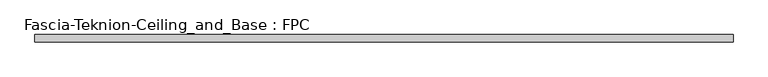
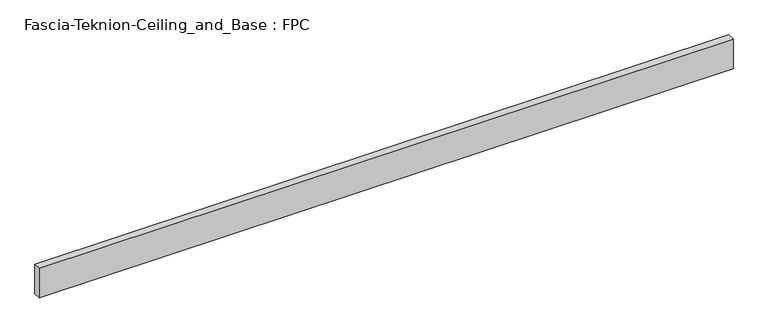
"""IFC4 building model written with IfcOpenShell, lengths in millimetres: proxy geometry, Fascia-Teknion-Ceiling_and_Base : FPC."""

from ifc_helpers import new_model, si_unit, origin, origin_with_axes, place, context, project, spatial, polyline, outline, extrude, source, transform, mapped, element, save


def fascia_teknion_ceiling_and_base_fpc_d1d4114e(model_context):
    return source(origin(), model_context, "Body", "SweptSolid", [
        extrude(outline(polyline([(904.2300781, 0.0), (904.2300781, -19.05), (-904.2300781, -19.05), (-904.2300781, 0.0), (904.2300781, 0.0)])), origin_with_axes(), (0.0, 0.0, 1.0), 81.28),
    ])


if __name__ == "__main__":
    model = new_model("IFC4")
    model_context = context("Model", 3, world=origin())
    ifc_project = project(units=[si_unit("LENGTHUNIT", "METRE", prefix="MILLI")], contexts=[model_context])
    site = spatial("IfcSite", under=ifc_project)
    building = spatial("IfcBuilding", under=site)
    placement = place(None, origin())
    fascia_teknion_ceiling_and_base_fpc_shape = fascia_teknion_ceiling_and_base_fpc_d1d4114e(model_context)
    element("IfcBuildingElementProxy", 1, Name="Fascia-Teknion-Ceiling_and_Base : FPC", ObjectType="Fascia-Teknion-Ceiling_and_Base : FPC", at=placement, inside=building, context=model_context, shape_type="MappedRepresentation", body=[
        mapped(fascia_teknion_ceiling_and_base_fpc_shape, transform((0.0, 0.0, 0.0), x_axis=(1.0, 0.0, 0.0), y_axis=(0.0, 1.0, 0.0), z_axis=(0.0, 0.0, 1.0))),
    ])
    save(model, "model.ifc")
